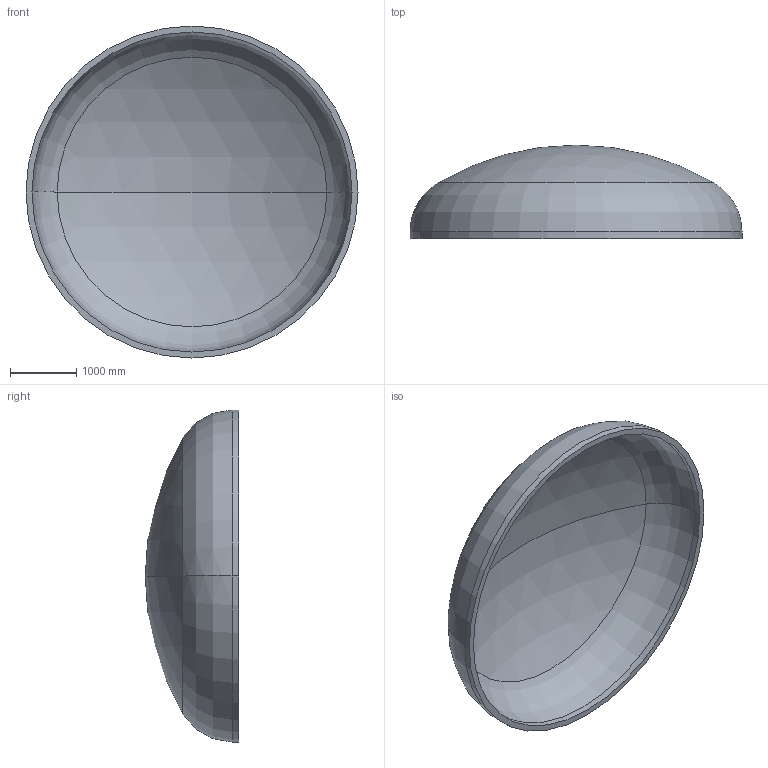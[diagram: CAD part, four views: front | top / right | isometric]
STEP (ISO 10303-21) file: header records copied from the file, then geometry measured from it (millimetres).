
FILE_DESCRIPTION (( 'STEP AP203' ), '1' );
FILE_NAME ('DIN 28013 Korbbogenform_-_Boden DIN 28013 - 5000 x 100 - I - s=90.step', '2016-07-02T00:51:35', ( '' ), ( '' ), 'SwSTEP 2.0', 'SolidWorks 2013', '' );
FILE_SCHEMA (( 'CONFIG_CONTROL_DESIGN' ));
Length unit declared in the file: millimetre
Products named in the file (1): DIN 28013 Korbbogenform_-_Boden DIN 28013 - 5000 x 100 - I - s=90
Bounding box: 5000 x 1407.32 x 5000 mm (x, y, z)
Volume: 2528905960 mm3; surface area: 57603124.1 mm2
Topology: 1 solids, 1 shells, 13 faces, 24 edges, 14 vertices
Faces by surface type: torus 4, cylinder 4, sphere 4, plane 1
Entity records: 407 total; most frequent: DIRECTION 72, CARTESIAN_POINT 52, ORIENTED_EDGE 48, AXIS2_PLACEMENT_3D 34, EDGE_CURVE 24, CIRCLE 20, VERTEX_POINT 14, EDGE_LOOP 14
